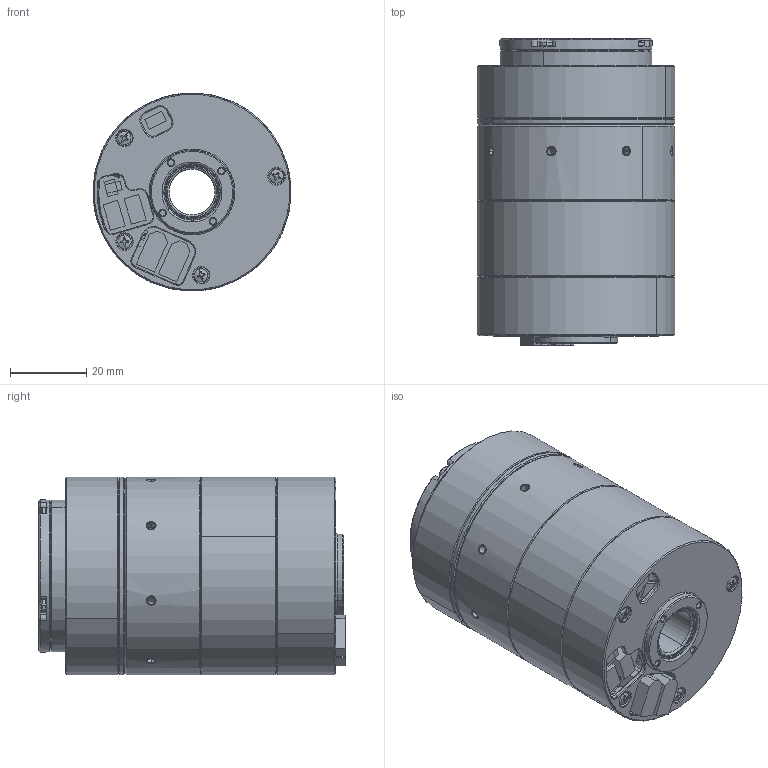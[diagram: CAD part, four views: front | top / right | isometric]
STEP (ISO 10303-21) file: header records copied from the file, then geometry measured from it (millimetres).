
FILE_DESCRIPTION (( 'STEP AP203' ), '1' );
FILE_NAME ('CRA-RI40-52-PRO-2-xxx-B-B0.step', '2024-07-31T06:08:11', ( '' ), ( '' ), 'SwSTEP 2.0', 'SolidWorks 2021', '' );
FILE_SCHEMA (( 'CONFIG_CONTROL_DESIGN' ));
Length unit declared in the file: millimetre
Products named in the file (1): CRA-RI40-52-PRO-2-xxx-B-B0
Bounding box: 51.97 x 80.4 x 51.97 mm (x, y, z)
Surface area: 34621.5 mm2 (no closed solid volume)
Topology: 0 solids, 83 shells, 878 faces, 3259 edges, 2425 vertices
Faces by surface type: plane 357, cylinder 280, cone 207, torus 24, sphere 8, bspline 2
Entity records: 39163 total; most frequent: CARTESIAN_POINT 11836, DIRECTION 5749, ORIENTED_EDGE 4958, EDGE_CURVE 3251, VERTEX_POINT 2425, AXIS2_PLACEMENT_3D 2069, LINE 1611, VECTOR 1611
